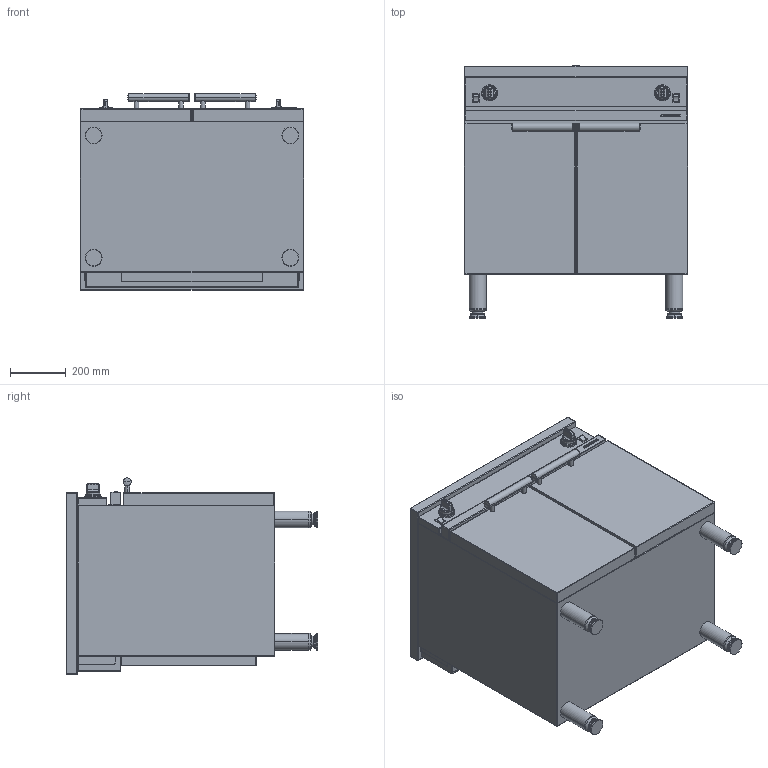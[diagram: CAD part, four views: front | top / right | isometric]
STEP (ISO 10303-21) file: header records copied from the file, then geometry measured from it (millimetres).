
FILE_DESCRIPTION((''),'2;1');
FILE_NAME('CME810MCA_CPM_EXPORT_STEP_ASM','2017-11-22T',('r.avril'),(''),'PRO/ENGINEER BY PARAMETRIC TECHNOLOGY CORPORATION, 2014200','PRO/ENGINEER BY PARAMETRIC TECHNOLOGY CORPORATION, 2014200','');
FILE_SCHEMA(('AP203_CONFIGURATION_CONTROLLED_3D_DESIGN_OF_MECHANICAL_PARTS_AND_ASSEMBLIES_MIM_LF { 1 0 10303 403 2 1 2 }'));
Length unit declared in the file: millimetre
Products named in the file (11): MODULES_AMB_800_EXPORT_STEP; TABLE_CME_810_M; 65101004; 65101004_MANETTE_VANNE; 65101004_ASM; TABLE_CME_810_M_ASM; MANETTE_AMB_EXPORT_STEP; BASCULEUR_AMB_EXPORT_DXF; PORTE_MODULE_AMB_400D; PORTE_MODULE_AMB_400G; CME810MCA_CPM_EXPORT_STEP_ASM
Assembly tree (12 placements, depth 4):
  CME810MCA_CPM_EXPORT_STEP_ASM
    MODULES_AMB_800_EXPORT_STEP
    TABLE_CME_810_M_ASM
      TABLE_CME_810_M
      65101004_ASM
        65101004
        65101004_MANETTE_VANNE
    MANETTE_AMB_EXPORT_STEP  x2
    BASCULEUR_AMB_EXPORT_DXF  x2
    PORTE_MODULE_AMB_400D
    PORTE_MODULE_AMB_400G
Bounding box: 800 x 901 x 703 mm (x, y, z)
Volume: 122324242.8 mm3; surface area: 8043378 mm2
Topology: 22 solids, 40 shells, 681 faces, 2156 edges, 1802 vertices
Faces by surface type: cylinder 253, plane 248, sphere 64, torus 54, cone 38, bspline 24
Entity records: 29514 total; most frequent: CARTESIAN_POINT 6933, DIRECTION 3679, ORIENTED_EDGE 3062, EDGE_CURVE 1756, AXIS2_PLACEMENT_3D 1346, VERTEX_POINT 1231, VECTOR 954, LINE 954
